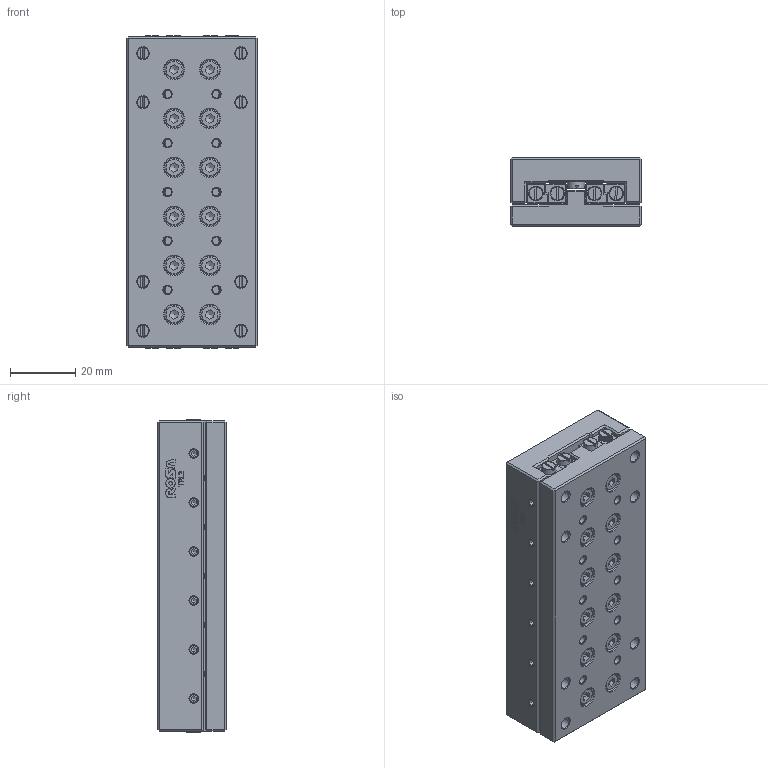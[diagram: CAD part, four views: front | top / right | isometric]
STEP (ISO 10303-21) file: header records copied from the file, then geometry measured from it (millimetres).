
FILE_DESCRIPTION(/* description */ ('Tavola TRL02 L=95 mm'),/* implementation_level */ '2;1');
FILE_NAME(/* name */ 'TRL020095-00.stp',/* time_stamp */ '2024-01-31T08:38:08+01:00',/* author */ ('Rosa sistemi'),/* organization */ (''),/* preprocessor_version */ 'ST-DEVELOPER v20',/* originating_system */ 'Autodesk Inventor 2024',/* authorisation */ '');
FILE_SCHEMA (('AUTOMOTIVE_DESIGN { 1 0 10303 214 3 1 1 }'));
Products named in the file (2): TRL020095-00; TRL020095-00_1
Assembly tree (1 placements, depth 2):
  TRL020095-00
    TRL020095-00_1
Bounding box: 40 x 21 x 95.6 mm (x, y, z)
Volume: 71564.2 mm3; surface area: 32129.2 mm2
Topology: 13 solids, 13 shells, 1820 faces, 4686 edges, 3036 vertices
Faces by surface type: plane 1159, cylinder 246, cone 191, bspline 156, torus 68
Full cylindrical faces by diameter (mm): 0.774 x4, 1.039 x1, 2 x1, 2.128 x4, 2.459 x34, 2.856 x1, 3 x24, 3.5 x8, 4.4 x24, 5.5 x24, 6 x32
Entity records: 57074 total; most frequent: CARTESIAN_POINT 12399, ORIENTED_EDGE 9312, DIRECTION 8486, EDGE_CURVE 4656, VERTEX_POINT 3036, LINE 2904, VECTOR 2904, AXIS2_PLACEMENT_3D 2791
